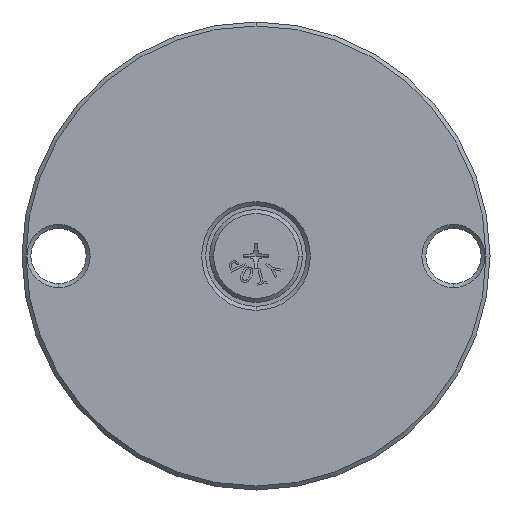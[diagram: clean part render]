
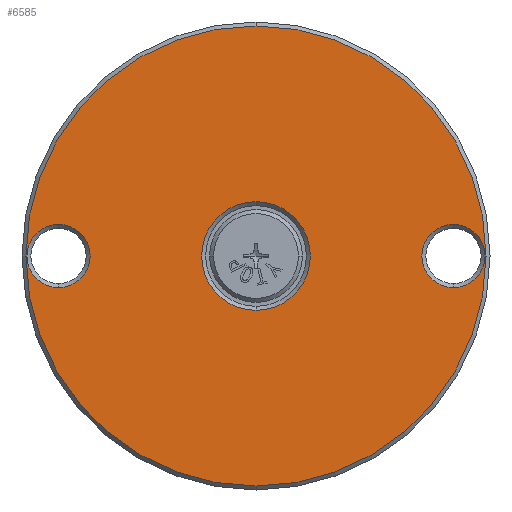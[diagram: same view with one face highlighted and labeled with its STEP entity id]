
A CAD part, front view. The second image highlights one B-rep face of the part: STEP entity #6585.
In plain terms, the highlighted planar face has unit normal (0, -1, 0).
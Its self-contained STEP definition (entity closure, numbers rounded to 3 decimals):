
#27 = CARTESIAN_POINT ( 'NONE',  ( -50., 0., 0. ) ) ;
#131 = FACE_BOUND ( 'NONE', #4141, .T. ) ;
#227 = CARTESIAN_POINT ( 'NONE',  ( 0., 0., 58.25 ) ) ;
#412 = AXIS2_PLACEMENT_3D ( 'NONE', #27, #4536, #659 ) ;
#602 = DIRECTION ( 'NONE',  ( 0., 0., 1. ) ) ;
#617 = CARTESIAN_POINT ( 'NONE',  ( 50., 0., 0. ) ) ;
#659 = DIRECTION ( 'NONE',  ( 0., 0., 1. ) ) ;
#704 = VERTEX_POINT ( 'NONE', #7248 ) ;
#956 = CARTESIAN_POINT ( 'NONE',  ( 0., 0., 0. ) ) ;
#1128 = ORIENTED_EDGE ( 'NONE', *, *, #6098, .T. ) ;
#1436 = CIRCLE ( 'NONE', #412, 8. ) ;
#1496 = DIRECTION ( 'NONE',  ( 0., 0., 1. ) ) ;
#1814 = DIRECTION ( 'NONE',  ( 0., 1., 0. ) ) ;
#1845 = DIRECTION ( 'NONE',  ( 0., -1., 0. ) ) ;
#1964 = CARTESIAN_POINT ( 'NONE',  ( 0., 0., 0. ) ) ;
#2044 = CIRCLE ( 'NONE', #2233, 58.25 ) ;
#2134 = CIRCLE ( 'NONE', #4038, 8. ) ;
#2140 = VERTEX_POINT ( 'NONE', #3365 ) ;
#2142 = CARTESIAN_POINT ( 'NONE',  ( 0., 0., 13.75 ) ) ;
#2233 = AXIS2_PLACEMENT_3D ( 'NONE', #956, #1845, #3147 ) ;
#2276 = VERTEX_POINT ( 'NONE', #2142 ) ;
#2355 = VERTEX_POINT ( 'NONE', #6452 ) ;
#2371 = EDGE_CURVE ( 'NONE', #2140, #7560, #6743, .T. ) ;
#2420 = CARTESIAN_POINT ( 'NONE',  ( -50., 0., -8. ) ) ;
#2612 = AXIS2_PLACEMENT_3D ( 'NONE', #6548, #4605, #3967 ) ;
#2662 = AXIS2_PLACEMENT_3D ( 'NONE', #1964, #5893, #602 ) ;
#3101 = EDGE_LOOP ( 'NONE', ( #7292, #7914 ) ) ;
#3147 = DIRECTION ( 'NONE',  ( 0., 0., 1. ) ) ;
#3175 = CARTESIAN_POINT ( 'NONE',  ( 0., 0., 0. ) ) ;
#3242 = EDGE_LOOP ( 'NONE', ( #1128, #5056 ) ) ;
#3352 = FACE_BOUND ( 'NONE', #3242, .T. ) ;
#3365 = CARTESIAN_POINT ( 'NONE',  ( 0., 0., -58.25 ) ) ;
#3429 = EDGE_CURVE ( 'NONE', #2355, #2276, #6533, .T. ) ;
#3565 = CARTESIAN_POINT ( 'NONE',  ( 50., 0., 0. ) ) ;
#3749 = FACE_OUTER_BOUND ( 'NONE', #3101, .T. ) ;
#3932 = AXIS2_PLACEMENT_3D ( 'NONE', #3565, #6177, #8149 ) ;
#3967 = DIRECTION ( 'NONE',  ( 0., 0., 1. ) ) ;
#4038 = AXIS2_PLACEMENT_3D ( 'NONE', #617, #5798, #8388 ) ;
#4141 = EDGE_LOOP ( 'NONE', ( #5409, #4932 ) ) ;
#4273 = VERTEX_POINT ( 'NONE', #2420 ) ;
#4437 = PLANE ( 'NONE',  #4866 ) ;
#4443 = EDGE_LOOP ( 'NONE', ( #5356, #6932 ) ) ;
#4536 = DIRECTION ( 'NONE',  ( 0., 1., 0. ) ) ;
#4605 = DIRECTION ( 'NONE',  ( 0., 1., 0. ) ) ;
#4608 = VERTEX_POINT ( 'NONE', #6588 ) ;
#4866 = AXIS2_PLACEMENT_3D ( 'NONE', #5119, #1814, #7010 ) ;
#4932 = ORIENTED_EDGE ( 'NONE', *, *, #5263, .T. ) ;
#5056 = ORIENTED_EDGE ( 'NONE', *, *, #5216, .T. ) ;
#5107 = EDGE_CURVE ( 'NONE', #7560, #2140, #2044, .T. ) ;
#5119 = CARTESIAN_POINT ( 'NONE',  ( 59.25, 0., 0. ) ) ;
#5216 = EDGE_CURVE ( 'NONE', #4608, #4273, #1436, .T. ) ;
#5263 = EDGE_CURVE ( 'NONE', #2276, #2355, #6708, .T. ) ;
#5356 = ORIENTED_EDGE ( 'NONE', *, *, #6416, .T. ) ;
#5409 = ORIENTED_EDGE ( 'NONE', *, *, #3429, .T. ) ;
#5452 = CARTESIAN_POINT ( 'NONE',  ( 0., 0., 0. ) ) ;
#5558 = DIRECTION ( 'NONE',  ( 0., -1., 0. ) ) ;
#5565 = AXIS2_PLACEMENT_3D ( 'NONE', #5452, #6017, #1496 ) ;
#5798 = DIRECTION ( 'NONE',  ( 0., 1., 0. ) ) ;
#5842 = DIRECTION ( 'NONE',  ( 0., 0., 1. ) ) ;
#5893 = DIRECTION ( 'NONE',  ( 0., 1., 0. ) ) ;
#5995 = EDGE_CURVE ( 'NONE', #704, #7321, #2134, .T. ) ;
#6017 = DIRECTION ( 'NONE',  ( 0., 1., 0. ) ) ;
#6098 = EDGE_CURVE ( 'NONE', #4273, #4608, #6503, .T. ) ;
#6177 = DIRECTION ( 'NONE',  ( 0., 1., 0. ) ) ;
#6416 = EDGE_CURVE ( 'NONE', #7321, #704, #7605, .T. ) ;
#6452 = CARTESIAN_POINT ( 'NONE',  ( 0., 0., -13.75 ) ) ;
#6503 = CIRCLE ( 'NONE', #2612, 8. ) ;
#6533 = CIRCLE ( 'NONE', #5565, 13.75 ) ;
#6548 = CARTESIAN_POINT ( 'NONE',  ( -50., 0., 0. ) ) ;
#6585 = ADVANCED_FACE ( 'NONE', ( #7209, #3352, #3749, #131 ), #4437, .F. ) ;
#6588 = CARTESIAN_POINT ( 'NONE',  ( -50., 0., 8. ) ) ;
#6708 = CIRCLE ( 'NONE', #2662, 13.75 ) ;
#6743 = CIRCLE ( 'NONE', #6787, 58.25 ) ;
#6787 = AXIS2_PLACEMENT_3D ( 'NONE', #3175, #5558, #5842 ) ;
#6932 = ORIENTED_EDGE ( 'NONE', *, *, #5995, .T. ) ;
#7010 = DIRECTION ( 'NONE',  ( 0., 0., 1. ) ) ;
#7209 = FACE_BOUND ( 'NONE', #4443, .T. ) ;
#7248 = CARTESIAN_POINT ( 'NONE',  ( 50., 0., 8. ) ) ;
#7292 = ORIENTED_EDGE ( 'NONE', *, *, #5107, .T. ) ;
#7321 = VERTEX_POINT ( 'NONE', #7334 ) ;
#7334 = CARTESIAN_POINT ( 'NONE',  ( 50., 0., -8. ) ) ;
#7560 = VERTEX_POINT ( 'NONE', #227 ) ;
#7605 = CIRCLE ( 'NONE', #3932, 8. ) ;
#7914 = ORIENTED_EDGE ( 'NONE', *, *, #2371, .T. ) ;
#8149 = DIRECTION ( 'NONE',  ( 0., 0., 1. ) ) ;
#8388 = DIRECTION ( 'NONE',  ( 0., 0., 1. ) ) ;
